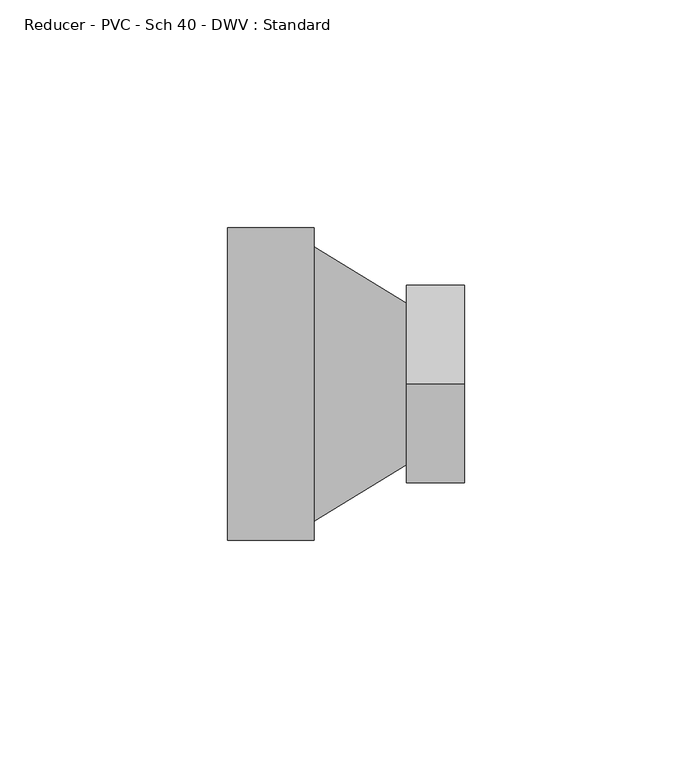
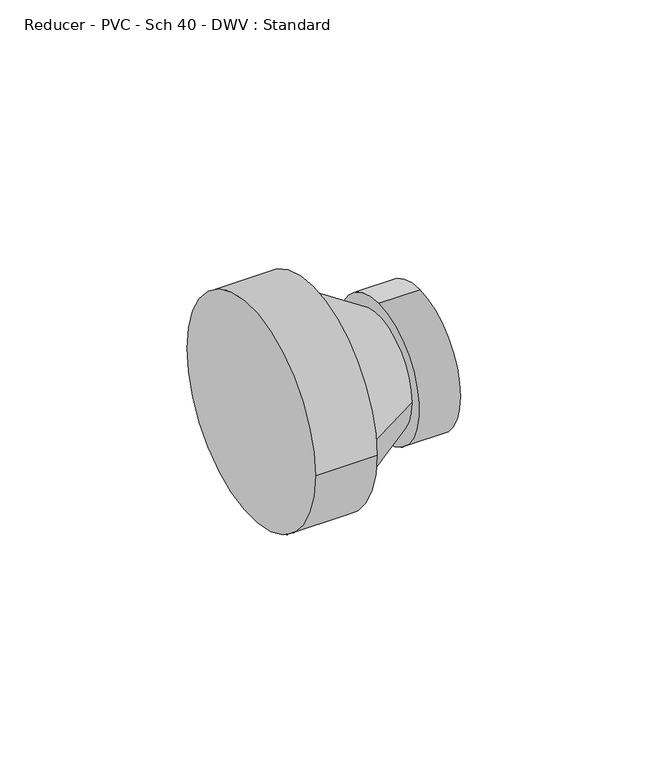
"""IFC4 building model written with IfcOpenShell, lengths in millimetres: pipe fitting geometry, Reducer - PVC - Sch 40 - DWV : Standard."""

from ifc_helpers import new_model, si_unit, frame, origin, place, context, project, spatial, polyline, circle_curve, source, transform, mapped, element, save
from ifc_brep_helpers import plane_surface, cylinder_surface, revolved_surface, advanced_brep


def reducer_pvc_sch_40_dwv_standard_1d7aeae1(model_context):
    return source(origin(), model_context, "Body", "AdvancedBrep", [
        advanced_brep(
        [(0.0, -34.3154, 0.0), (0.0, 34.3154, 0.0), (19.05, -34.3154, 0.0), (19.05, 34.3154, 0.0), (19.05, 30.1625, 0.0), (19.05, -30.1625, 0.0), (39.3580938, 17.7720625, 0.0), (39.3580938, -17.7720625, 0.0), (39.3580938, 0.0, 21.7031094), (39.3580938, 0.0, -21.7031094), (52.0580938, 0.0, 21.7031094), (52.0580938, 0.0, -21.7031094)],
        [
            (0, 1, circle_curve(frame((0.0, 0.0, 0.0), z_axis=(-1.0, 0.0, 0.0), x_axis=(0.0, 1.0, 0.0)), 34.3154)),
            (1, 0, circle_curve(frame((0.0, 0.0, 0.0), z_axis=(-1.0, 0.0, 0.0), x_axis=(0.0, 1.0, 0.0)), 34.3154)),
            (2, 3, circle_curve(frame((19.05, 0.0, 0.0), z_axis=(1.0, 0.0, 0.0), x_axis=(0.0, 1.0, 0.0)), 34.3154)),
            (3, 2, circle_curve(frame((19.05, 0.0, 0.0), z_axis=(1.0, 0.0, 0.0), x_axis=(0.0, 1.0, 0.0)), 34.3154)),
            (4, 5, circle_curve(frame((19.05, 0.0, 0.0), z_axis=(-1.0, 0.0, 0.0), x_axis=(0.0, -1.0, 0.0)), 30.1625)),
            (5, 4, circle_curve(frame((19.05, 0.0, 0.0), z_axis=(-1.0, 0.0, 0.0), x_axis=(0.0, 1.0, 0.0)), 30.1625)),
            (0, 2),
            (3, 1),
            (4, 6),
            (6, 7, circle_curve(frame((39.3580938, 0.0, 0.0), z_axis=(-1.0, 0.0, 0.0), x_axis=(0.0, -1.0, 0.0)), 17.7720625)),
            (7, 5),
            (7, 6, circle_curve(frame((39.3580938, 0.0, 0.0), z_axis=(-1.0, 0.0, 0.0), x_axis=(0.0, 1.0, 0.0)), 17.7720625)),
            (8, 9, circle_curve(frame((39.3580938, 0.0, 0.0), z_axis=(-1.0, 0.0, 0.0), x_axis=(0.0, 0.0, -1.0)), 21.7031094)),
            (9, 8, circle_curve(frame((39.3580938, 0.0, 0.0), z_axis=(-1.0, 0.0, 0.0), x_axis=(0.0, 0.0, -1.0)), 21.7031094)),
            (10, 11, circle_curve(frame((52.0580938, 0.0, 0.0), z_axis=(1.0, 0.0, 0.0), x_axis=(0.0, 0.0, -1.0)), 21.7031094)),
            (11, 10, circle_curve(frame((52.0580938, 0.0, 0.0), z_axis=(1.0, 0.0, 0.0), x_axis=(0.0, 0.0, -1.0)), 21.7031094)),
            (8, 10),
            (11, 9),
        ],
        [
            plane_surface(frame((0.0, 0.0, 0.0), z_axis=(-1.0, 0.0, 0.0), x_axis=(0.0, 0.0, 1.0))),
            plane_surface(frame((19.05, 0.0, 0.0), z_axis=(1.0, 0.0, 0.0), x_axis=(0.0, 0.0, 1.0))),
            cylinder_surface(frame((0.0, 0.0, 0.0), z_axis=(-1.0, 0.0, 0.0), x_axis=(0.0, 1.0, 0.0)), 34.3154),
            revolved_surface(polyline([(39.35809379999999, 17.77206247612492, 0.0), (19.049999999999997, 30.1625, 0.0)]), (68.4867433, 0.0, 0.0), (-1.0, 0.0, 0.0)),
            plane_surface(frame((39.3580938, 0.0, 0.0), z_axis=(-1.0, 0.0, 0.0), x_axis=(0.0, 1.0, 0.0))),
            plane_surface(frame((52.0580938, 0.0, 0.0), z_axis=(1.0, 0.0, 0.0), x_axis=(0.0, 1.0, 0.0))),
            cylinder_surface(frame((39.3580938, 0.0, 0.0), z_axis=(-1.0, 0.0, 0.0), x_axis=(0.0, 0.0, -1.0)), 21.7031094),
        ],
        [
            (0, [[1, 2]]),
            (1, [[3, 4], [5, 6]]),
            (2, [[-1, 7, -4, 8]]),
            (2, [[-2, -8, -3, -7]]),
            (3, [[9, 10, 11, -5]]),
            (3, [[-9, -6, -11, 12]]),
            (4, [[13, 14], [-10, -12]]),
            (5, [[15, 16]]),
            (6, [[-13, 17, -16, 18]]),
            (6, [[-14, -18, -15, -17]]),
        ],
    ),
    ])


if __name__ == "__main__":
    model = new_model("IFC4")
    model_context = context("Model", 3, world=origin())
    ifc_project = project(units=[si_unit("LENGTHUNIT", "METRE", prefix="MILLI")], contexts=[model_context])
    site = spatial("IfcSite", under=ifc_project)
    building = spatial("IfcBuilding", under=site)
    placement = place(None, origin())
    reducer_pvc_sch_40_dwv_standard_shape = reducer_pvc_sch_40_dwv_standard_1d7aeae1(model_context)
    element("IfcPipeFitting", 1, ObjectType="Reducer - PVC - Sch 40 - DWV : Standard", at=placement, inside=building, context=model_context, shape_type="MappedRepresentation", body=[
        mapped(reducer_pvc_sch_40_dwv_standard_shape, transform((0.0, 0.0, 0.0), x_axis=(1.0, 0.0, 0.0), y_axis=(0.0, 1.0, 0.0), z_axis=(0.0, 0.0, 1.0))),
    ])
    save(model, "model.ifc")
